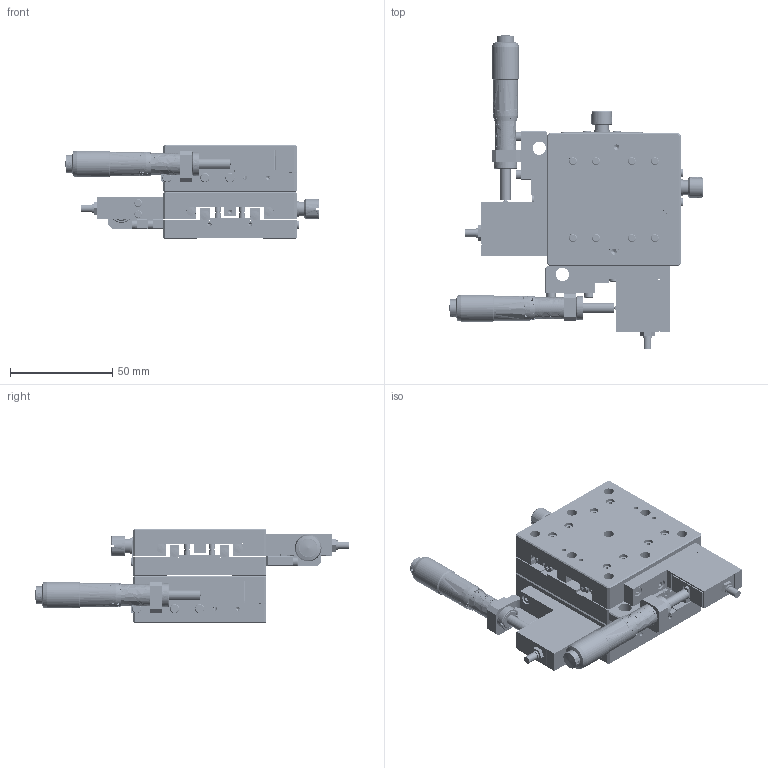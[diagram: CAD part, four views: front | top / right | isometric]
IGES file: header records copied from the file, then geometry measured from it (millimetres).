
Global section: file name: TADC-652WSR25UUPA_IGS; native system: Autodesk Inventor 2020; preprocessor: unknown; author: ta.murata; date: 20210419.151928; units: millimetre
Bounding box: 123.9 x 153.5 x 46 mm (x, y, z)
Volume: 201062.7 mm3; surface area: 93137 mm2
Topology: 5 solids, 125 shells, 4773 faces, 12311 edges, 8208 vertices
Faces by surface type: bspline 4773
